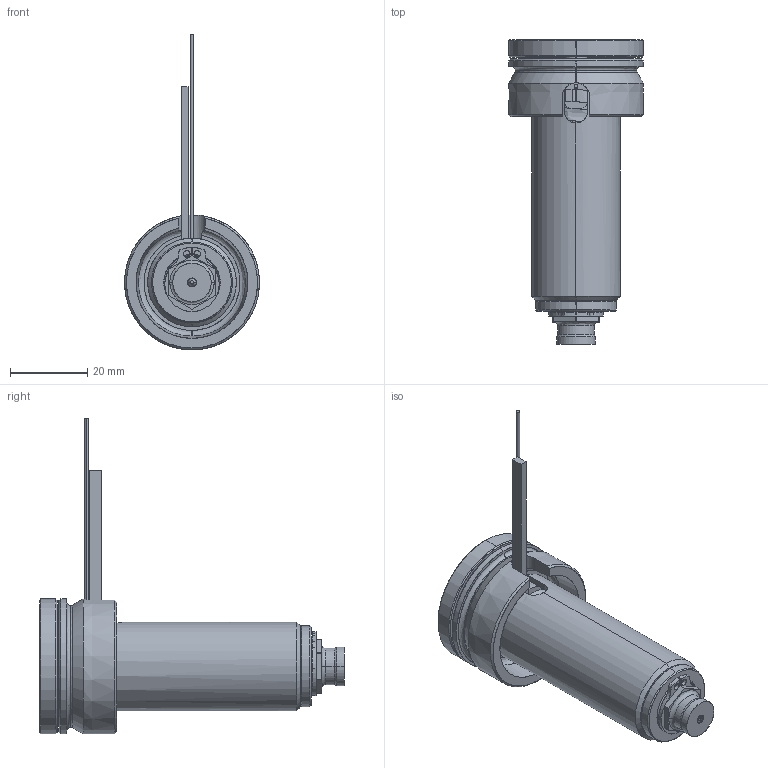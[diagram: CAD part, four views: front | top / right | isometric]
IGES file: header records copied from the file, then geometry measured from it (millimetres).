
Start section: SolidWorks IGES file using analytic representation for surfaces
Global section: file name: C:\Documents and Settings\ws-20\Desktop\TEM\UGEP3151-S-A-1 [Øf-0.90 P-0 ØC-6.0].IGS; native system: SolidWorks 2012; preprocessor: SolidWorks 2012; author: ws-20; date: 120404.080529; units: millimetre
Bounding box: 35 x 79 x 81.9 mm (x, y, z)
Surface area: 18014 mm2 (no closed solid volume)
Topology: 0 solids, 0 shells, 132 faces, 2056 edges, 2056 vertices
Faces by surface type: revolution 81, bspline 51
